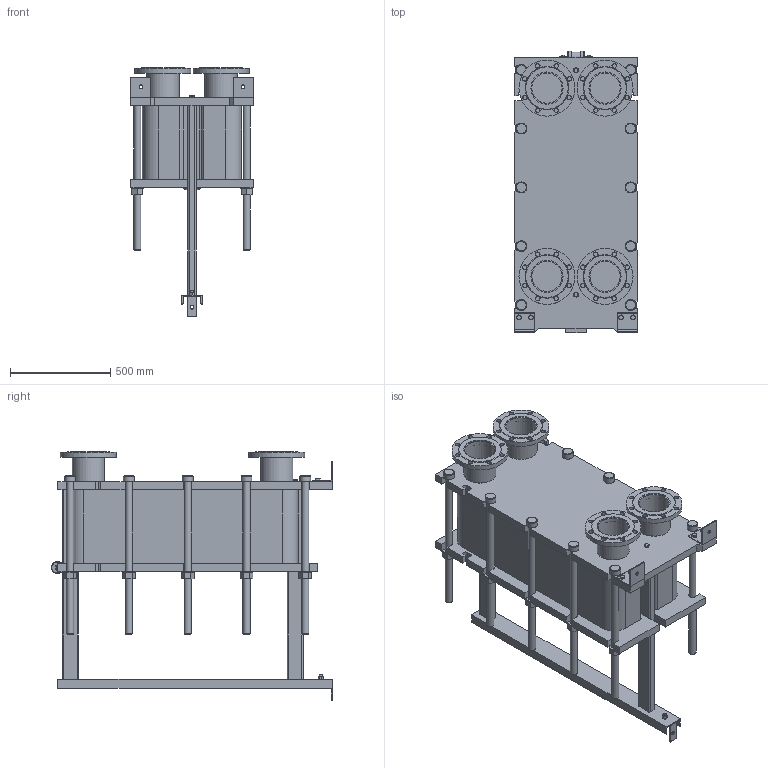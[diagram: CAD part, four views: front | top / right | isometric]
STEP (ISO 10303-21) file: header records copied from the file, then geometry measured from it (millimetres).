
FILE_DESCRIPTION(/* description */ (''),/* implementation_level */ '2;1');
FILE_NAME(/* name */ 'C:\Users\zhuro\Desktop\ENCO\TO\ЭН-041\ЭН-0,5-041-107-1.stp',/* time_stamp */ '2022-06-06T10:58:38+03:00',/* author */ ('zhuro'),/* organization */ (''),/* preprocessor_version */ 'ST-DEVELOPER v18.1',/* originating_system */ 'Autodesk Inventor 2022',/* authorisation */ '');
FILE_SCHEMA (('AUTOMOTIVE_DESIGN { 1 0 10303 214 3 1 1 }'));
Length unit declared in the file: millimetre
Products named in the file (1): ЭН-0,5-041-107-1
Bounding box: 610 x 1406.5 x 1242.5 mm (x, y, z)
Volume: 288588781.3 mm3; surface area: 9178855.4 mm2
Topology: 52 solids, 52 shells, 711 faces, 1696 edges, 1094 vertices
Faces by surface type: plane 487, cylinder 177, cone 41, torus 6
Full cylindrical faces by diameter (mm): 8 x4, 10 x2, 16 x8, 18 x3, 22 x32, 36 x24, 50 x1, 54 x10, 60 x12, 151 x4, 161 x8, 280 x4
Entity records: 22667 total; most frequent: CARTESIAN_POINT 5230, DIRECTION 3644, ORIENTED_EDGE 3392, EDGE_CURVE 1696, AXIS2_PLACEMENT_3D 1272, LINE 1100, VECTOR 1100, VERTEX_POINT 1094
